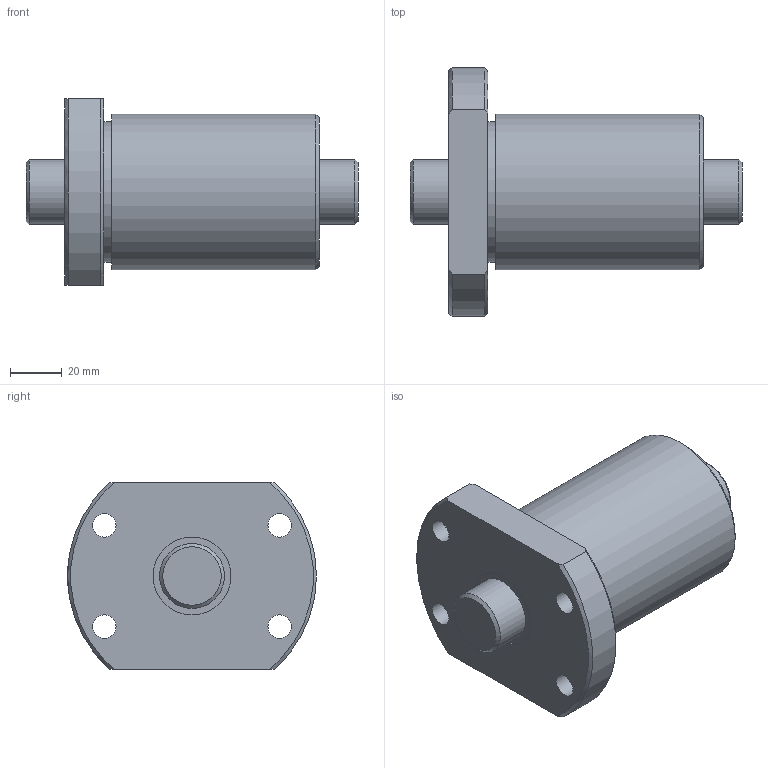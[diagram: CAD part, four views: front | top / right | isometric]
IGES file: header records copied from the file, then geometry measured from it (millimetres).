
Start section: Data from Parasolid IGES Translator 26.0.171, Copyright(c) 2006 Siemens PLM Software. All Rights Reserved.
Global section: file name: BTK2510V-5.3ZZ+128LC7T_000.igs; native system: By Siemens PLM Incorporated; preprocessor: XPlus GENERIC/IGES 26.0.171; author: Noname; organization: Noname; date: 20250116.075604; units: millimetre
Bounding box: 128 x 96 x 72 mm (x, y, z)
Surface area: 52353.9 mm2 (no closed solid volume)
Topology: 0 solids, 0 shells, 31 faces, 136 edges, 119 vertices
Faces by surface type: revolution 21, extrusion 10
